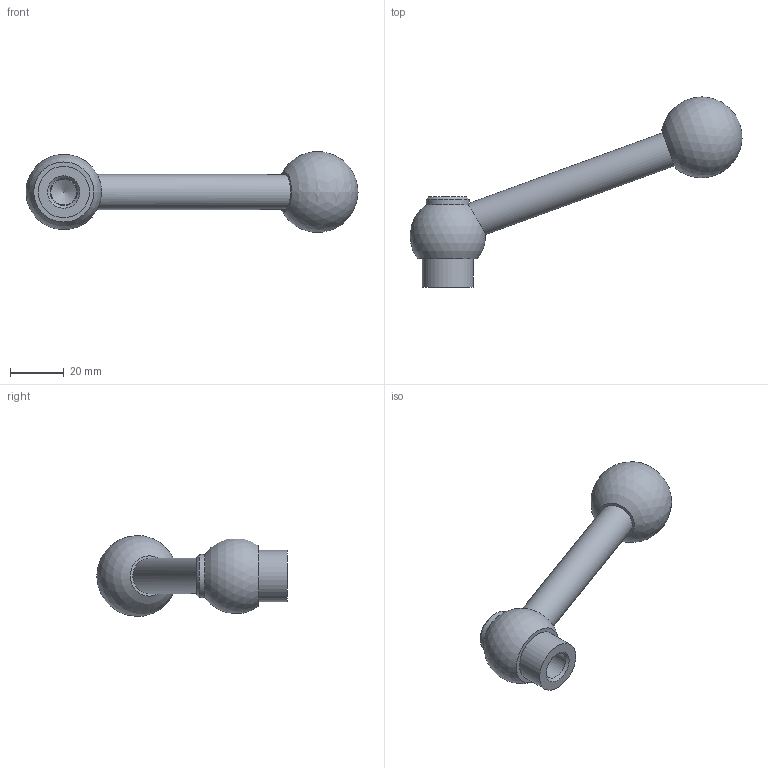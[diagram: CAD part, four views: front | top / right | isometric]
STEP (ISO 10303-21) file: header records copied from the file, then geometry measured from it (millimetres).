
FILE_DESCRIPTION( ( 'STEP AP203' ), '1' );
FILE_NAME( 'C:/Temp/Ganter_Step_05_03_2020/data/2_1/gn_6337_3/gn_6337_3_mb/gn_6337_3_mb_n/Adjustable clamping lever GN 6337.3-28-M12-N.stp', '2020-03-05T11:41:12', ( 'License CC BY-ND 4.0' ), ( 'CADENAS' ), ' ', 'PARTsolutions', ' ' );
FILE_SCHEMA( ( 'CONFIG_CONTROL_DESIGN' ) );
Length unit declared in the file: millimetre
Products named in the file (1): _Adjustable clamping lever GN 6337.3-28-M12-N
Bounding box: 122.98 x 70.49 x 29.7 mm (x, y, z)
Volume: 35860.4 mm3; surface area: 9341.5 mm2
Topology: 1 solids, 1 shells, 15 faces, 30 edges, 19 vertices
Faces by surface type: cylinder 5, plane 5, cone 3, sphere 2
Full cylindrical faces by diameter (mm): 9.6 x1, 10.106 x1, 13 x1, 15.969 x1, 19 x1
Entity records: 430 total; most frequent: CARTESIAN_POINT 131, DIRECTION 58, ORIENTED_EDGE 30, AXIS2_PLACEMENT_3D 29, EDGE_LOOP 27, FACE_OUTER_BOUND 21, VERTEX_POINT 16, ADVANCED_FACE 15
